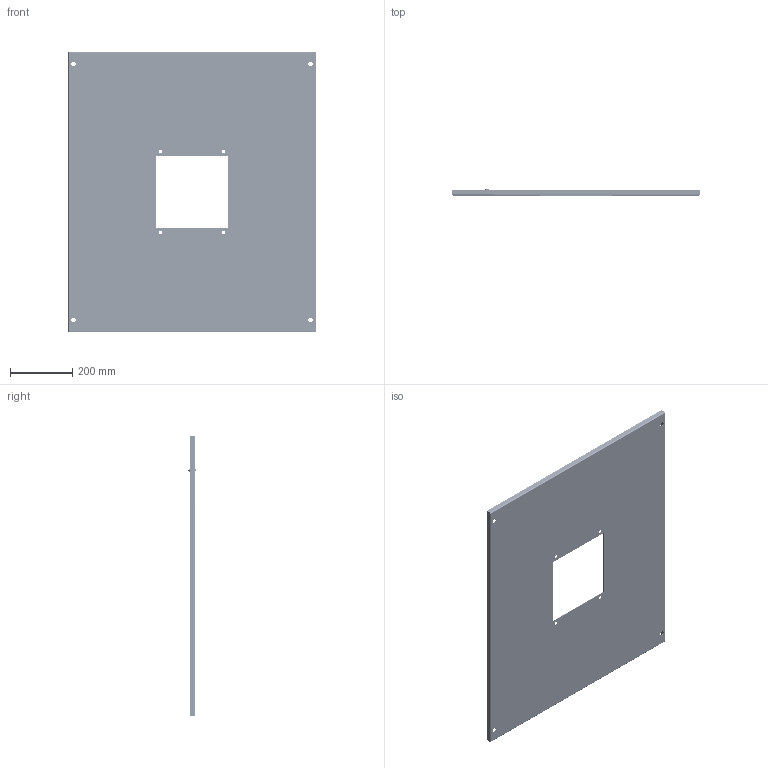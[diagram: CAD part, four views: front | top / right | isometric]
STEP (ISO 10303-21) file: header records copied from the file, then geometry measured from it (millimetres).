
FILE_DESCRIPTION (( 'STEP AP203' ), '1' );
FILE_NAME ('24479.step', '2013-03-18T08:54:23', ( '' ), ( '' ), 'SwSTEP 2.0', 'SolidWorks 2010', '' );
FILE_SCHEMA (( 'CONFIG_CONTROL_DESIGN' ));
Products named in the file (11): 24479; 87415510; 87576843_87576843; 31127823; 31127736; 89052549_FIP GASKET; 60100041_60100041; 87931527_87931527; 87931368_SLEEVE; 89052563; 89052562
Assembly tree (14 placements, depth 4):
  24479
    87415510
      31127736  x2
      60100041_60100041
        87931527_87931527
        87931368_SLEEVE
      89052549_FIP GASKET
      87576843_87576843
      31127823  x2
    89052563  x2
    89052562  x2
Bounding box: 791.79 x 23.2 x 898.8 mm (x, y, z)
Volume: 1207782.1 mm3; surface area: 1972137.7 mm2
Topology: 12 solids, 12 shells, 13139 faces, 40894 edges, 27212 vertices
Faces by surface type: plane 8191, cylinder 4922, bspline 20, cone 6
Entity records: 233364 total; most frequent: CARTESIAN_POINT 41618, ORIENTED_EDGE 41214, DIRECTION 38797, EDGE_CURVE 20607, VECTOR 15619, LINE 15619, VERTEX_POINT 13706, AXIS2_PLACEMENT_3D 11589
